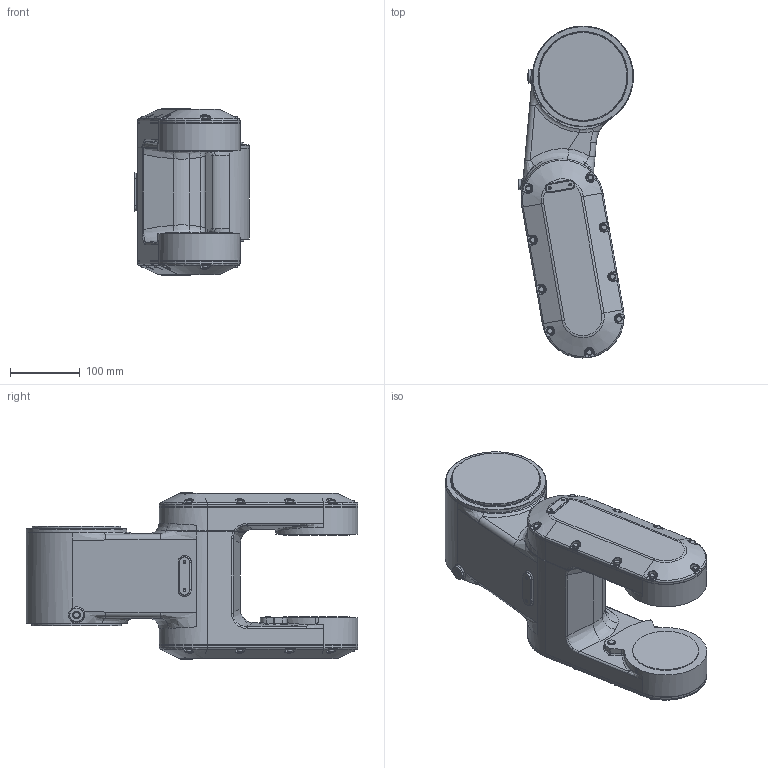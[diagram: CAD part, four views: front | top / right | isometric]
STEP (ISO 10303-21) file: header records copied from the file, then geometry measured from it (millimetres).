
FILE_DESCRIPTION (( 'STEP AP203' ), '1' );
FILE_NAME ('IRB1200GEN2_7kg-710_BTM_OC_00_Link02_CAD.STEP', '2025-06-16T02:57:30', ( '' ), ( '' ), 'SwSTEP 2.0', 'SolidWorks 2022', '' );
FILE_SCHEMA (( 'CONFIG_CONTROL_DESIGN' ));
Products named in the file (1): IRB1200GEN2_7kg-710_BTM_OC_00_Link02_CAD
Bounding box: 165 x 476.45 x 241 mm (x, y, z)
Volume: 7587608 mm3; surface area: 321648.5 mm2
Topology: 1 solids, 1 shells, 648 faces, 1496 edges, 896 vertices
Faces by surface type: bspline 231, cylinder 157, plane 150, torus 61, cone 49
Full cylindrical faces by diameter (mm): 3.3 x6, 7 x18, 9 x18, 9.9 x2, 10 x2, 95 x2, 118 x1, 129 x1
Entity records: 45999 total; most frequent: CARTESIAN_POINT 33416, ORIENTED_EDGE 2764, DIRECTION 2261, EDGE_CURVE 1382, AXIS2_PLACEMENT_3D 978, VERTEX_POINT 857, EDGE_LOOP 769, FACE_OUTER_BOUND 699
